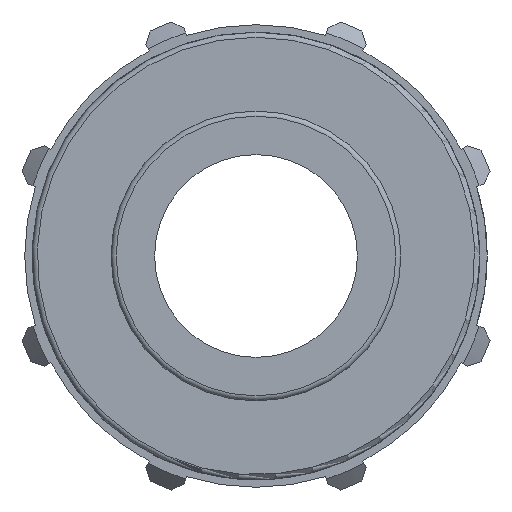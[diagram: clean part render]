
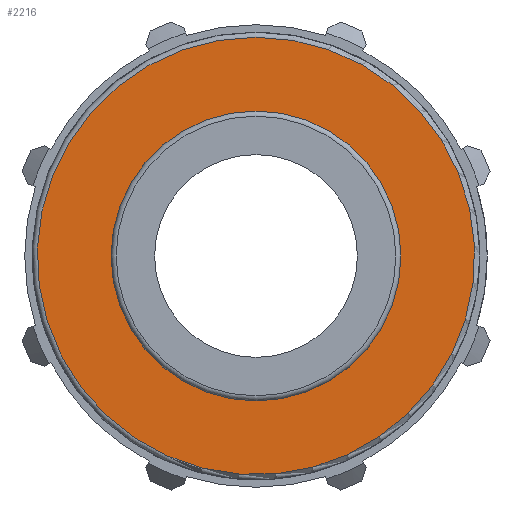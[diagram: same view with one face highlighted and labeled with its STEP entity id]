
A CAD part, left-side view. The second image highlights one B-rep face of the part: STEP entity #2216.
In plain terms, the highlighted planar face has unit normal (-1, 0, 0).
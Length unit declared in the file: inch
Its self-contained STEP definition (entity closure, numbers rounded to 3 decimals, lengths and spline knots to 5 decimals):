
#422=FACE_BOUND('',#639,.T.);
#435=PLANE('',#2401);
#514=FACE_OUTER_BOUND('',#638,.T.);
#638=EDGE_LOOP('',(#1534,#1535));
#639=EDGE_LOOP('',(#1536,#1537));
#746=CIRCLE('',#2341,0.941);
#747=CIRCLE('',#2342,0.941);
#784=CIRCLE('',#2399,1.42035);
#785=CIRCLE('',#2400,1.42035);
#863=VERTEX_POINT('',#3209);
#864=VERTEX_POINT('',#3210);
#930=VERTEX_POINT('',#3599);
#931=VERTEX_POINT('',#3601);
#1087=EDGE_CURVE('',#863,#864,#746,.T.);
#1088=EDGE_CURVE('',#864,#863,#747,.T.);
#1175=EDGE_CURVE('',#930,#931,#784,.T.);
#1176=EDGE_CURVE('',#931,#930,#785,.T.);
#1534=ORIENTED_EDGE('',*,*,#1176,.F.);
#1535=ORIENTED_EDGE('',*,*,#1175,.F.);
#1536=ORIENTED_EDGE('',*,*,#1087,.T.);
#1537=ORIENTED_EDGE('',*,*,#1088,.T.);
#2216=ADVANCED_FACE('',(#514,#422),#435,.T.);
#2341=AXIS2_PLACEMENT_3D('',#3211,#2589,#2590);
#2342=AXIS2_PLACEMENT_3D('',#3212,#2591,#2592);
#2399=AXIS2_PLACEMENT_3D('',#3602,#2731,#2732);
#2400=AXIS2_PLACEMENT_3D('',#3603,#2733,#2734);
#2401=AXIS2_PLACEMENT_3D('',#3604,#2735,#2736);
#2589=DIRECTION('center_axis',(1.,0.,0.));
#2590=DIRECTION('ref_axis',(0.,0.,-1.));
#2591=DIRECTION('center_axis',(1.,0.,0.));
#2592=DIRECTION('ref_axis',(0.,0.,-1.));
#2731=DIRECTION('center_axis',(1.,0.,0.));
#2732=DIRECTION('ref_axis',(0.,-0.552,0.834));
#2733=DIRECTION('center_axis',(1.,0.,0.));
#2734=DIRECTION('ref_axis',(0.,-0.552,0.834));
#2735=DIRECTION('center_axis',(-1.,0.,0.));
#2736=DIRECTION('ref_axis',(0.,0.,1.));
#3209=CARTESIAN_POINT('',(0.87,0.941,0.));
#3210=CARTESIAN_POINT('',(0.87,-0.941,0.));
#3211=CARTESIAN_POINT('Origin',(0.87,0.,0.));
#3212=CARTESIAN_POINT('Origin',(0.87,0.,0.));
#3599=CARTESIAN_POINT('',(0.87,0.,1.42035));
#3601=CARTESIAN_POINT('',(0.87,0.78363,-1.18461));
#3602=CARTESIAN_POINT('Origin',(0.87,0.,0.));
#3603=CARTESIAN_POINT('Origin',(0.87,0.,0.));
#3604=CARTESIAN_POINT('Origin',(0.87,1.4535,0.));
